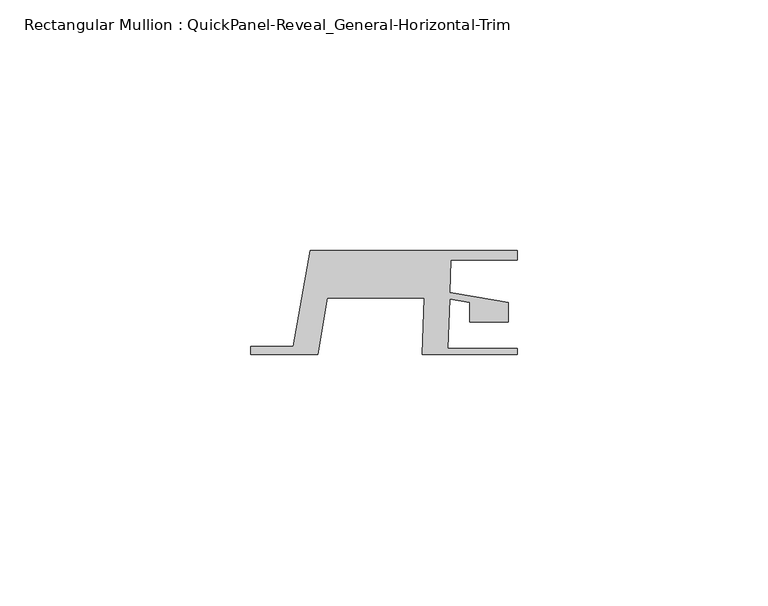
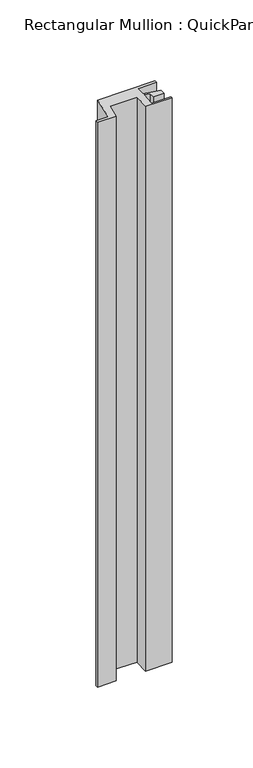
"""IFC4 building model written with IfcOpenShell, lengths in millimetres: member geometry, Rectangular Mullion : QuickPanel-Reveal_General-Horizontal-Trim."""

from ifc_helpers import new_model, si_unit, frame, origin, place, context, project, spatial, polyline, outline, extrude, source, transform, mapped, element, save


def rectangular_mullion_quickpanel_reveal_general_horizontal_5eff034f(model_context):
    return source(origin(), model_context, "Body", "SweptSolid", [
        extrude(outline(polyline([(28.3897075, 8.6293878), (28.3897075, 6.6935423), (15.1487948, 6.6935423), (14.9220096, 0.1992641), (20.1722905, -0.7008023), (26.6076231, -1.8040245), (26.6076231, -5.6493034), (18.86285, -5.6493034), (18.86285, -1.7648465), (14.8772811, -1.0815922), (14.533354, -10.9303752), (28.3897075, -10.9303752), (28.3897075, -12.1803727), (9.4066067, -12.1803727), (9.8003757, -0.9043028), (-9.490275, -0.9043028), (-11.4233548, -12.1803727), (-24.8029806, -12.1803727), (-24.8029806, -10.4985348), (-16.27755, -10.4985348), (-12.9047811, 8.6293878), (28.3897075, 8.6293878)])), frame((0.0, 0.0, -426.3689016), z_axis=(0.0, 0.0, 1.0), x_axis=(1.0, 0.0, 0.0)), (0.0, 0.0, 1.0), 426.3689016),
    ])


if __name__ == "__main__":
    model = new_model("IFC4")
    model_context = context("Model", 3, world=origin())
    ifc_project = project(units=[si_unit("LENGTHUNIT", "METRE", prefix="MILLI")], contexts=[model_context])
    site = spatial("IfcSite", under=ifc_project)
    building = spatial("IfcBuilding", under=site)
    placement = place(None, origin())
    rectangular_mullion_quickpanel_reveal_general_horizontal_shape = rectangular_mullion_quickpanel_reveal_general_horizontal_5eff034f(model_context)
    element("IfcMember", 1, ObjectType="Rectangular Mullion : QuickPanel-Reveal_General-Horizontal-Trim", at=placement, inside=building, context=model_context, shape_type="MappedRepresentation", body=[
        mapped(rectangular_mullion_quickpanel_reveal_general_horizontal_shape, transform((0.0, 0.0, 0.0), x_axis=(1.0, 0.0, 0.0), y_axis=(0.0, 1.0, 0.0), z_axis=(0.0, 0.0, 1.0))),
    ])
    save(model, "model.ifc")
